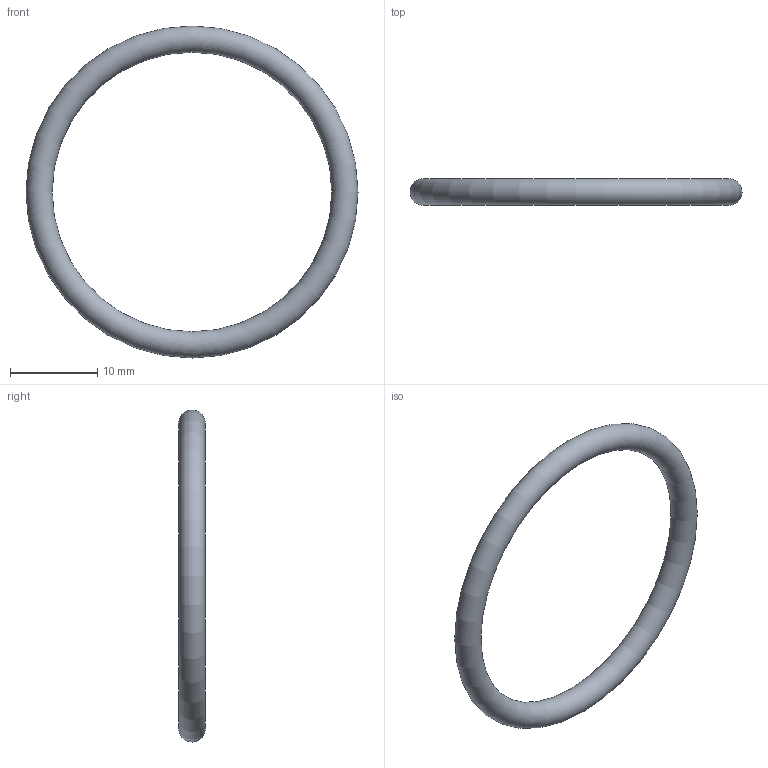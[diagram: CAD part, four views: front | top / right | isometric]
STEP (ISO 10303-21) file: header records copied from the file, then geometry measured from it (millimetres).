
FILE_DESCRIPTION( ( 'STEP AP203' ), '1' );
FILE_NAME( 'C:/Temp/Ganter_Step_05_03_2020/data/3_5/or638/O-Ring OR638-32.00-3.00-70.stp', '2020-03-12T13:44:30', ( 'License CC BY-ND 4.0' ), ( 'CADENAS' ), ' ', 'PARTsolutions', ' ' );
FILE_SCHEMA( ( 'CONFIG_CONTROL_DESIGN' ) );
Length unit declared in the file: millimetre
Products named in the file (1): _O-Ring OR638-32.00-3.00-70
Bounding box: 38 x 3 x 38 mm (x, y, z)
Volume: 777.2 mm3; surface area: 1036.3 mm2
Topology: 1 solids, 1 shells, 1 faces, 2 edges, 1 vertices
Faces by surface type: torus 1
Entity records: 62 total; most frequent: CC_DESIGN_PERSON_AND_ORGANIZATION_ASSIGNMENT 5, PERSON_AND_ORGANIZATION_ROLE 4, DIRECTION 4, CARTESIAN_POINT 3, DATE_TIME_ROLE 2, CC_DESIGN_DATE_AND_TIME_ASSIGNMENT 2, AXIS2_PLACEMENT_3D 2, DIMENSIONAL_EXPONENTS 2
